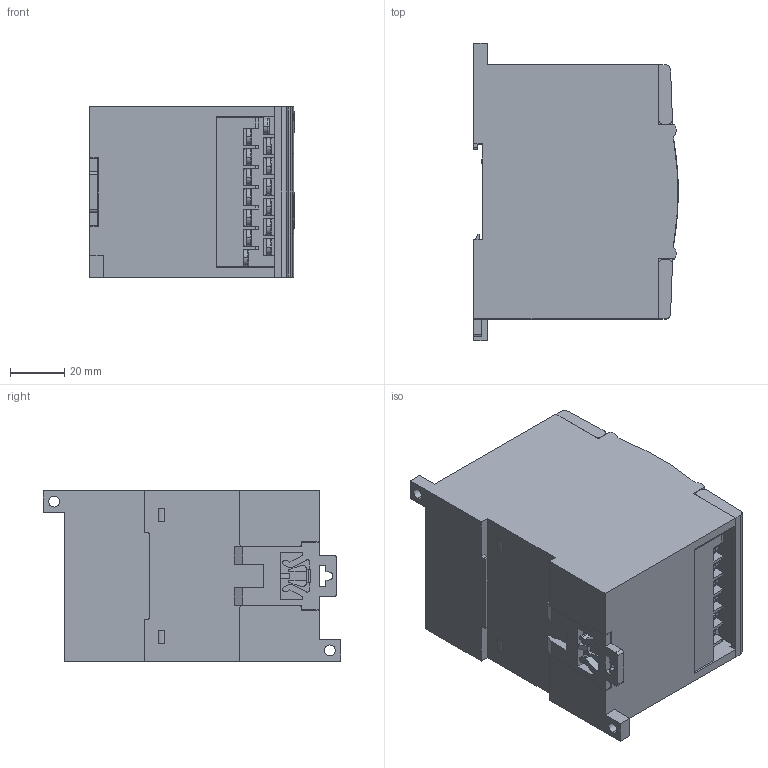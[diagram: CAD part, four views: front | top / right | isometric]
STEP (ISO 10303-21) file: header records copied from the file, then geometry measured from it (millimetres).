
FILE_DESCRIPTION (( 'STEP AP214' ), '1' );
FILE_NAME ('3D 沓麧錪 斨110-224.16騵.STEP', '2015-08-28T11:09:29', ( 'adm' ), ( 'owen' ), 'SwSTEP 2.0', 'SolidWorks 2013', '' );
FILE_SCHEMA (( 'AUTOMOTIVE_DESIGN' ));
Length unit declared in the file: millimetre
Products named in the file (6): 婰膲僗闉; Ðîçåòêà ÌÕ-12; Êðûøêà ïðîçðà÷íàÿ ÌÂ110; 扻豵鵨 斨110-224.16騵; MX110_002FA01M; 3D 沓麧錪 斨110-224.16騵
Assembly tree (7 placements, depth 2):
  3D 沓麧錪 斨110-224.16騵
    MX110_002FA01M
    婰膲僗闉
    Êðûøêà ïðîçðà÷íàÿ ÌÂ110  x2
    扻豵鵨 斨110-224.16騵
    Ðîçåòêà ÌÕ-12  x2
Bounding box: 75.62 x 110 x 63 mm (x, y, z)
Volume: 413223.6 mm3; surface area: 63230.8 mm2
Topology: 36 solids, 36 shells, 2009 faces, 5262 edges, 3473 vertices
Faces by surface type: plane 1222, bspline 409, cylinder 262, cone 112, torus 4
Entity records: 82255 total; most frequent: CARTESIAN_POINT 31404, ORIENTED_EDGE 8276, DIRECTION 5954, EDGE_CURVE 4138, VERTEX_POINT 2741, VECTOR 2030, LINE 2030, AXIS2_PLACEMENT_3D 1962
